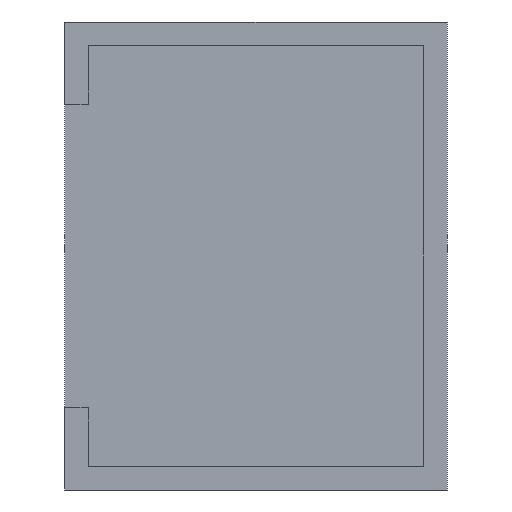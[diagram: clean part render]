
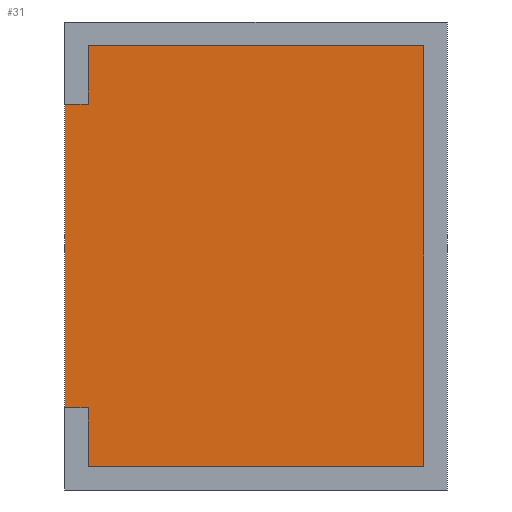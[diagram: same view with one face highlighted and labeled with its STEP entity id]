
A CAD part, left-side view. The second image highlights one B-rep face of the part: STEP entity #31.
In plain terms, the highlighted planar face has unit normal (-1, 0, 0).
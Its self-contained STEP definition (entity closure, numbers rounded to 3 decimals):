
#3 = LINE ( 'NONE', #293, #412 ) ;
#6 = CARTESIAN_POINT ( 'NONE',  ( -16.3, -21., -22.8 ) ) ;
#23 = ORIENTED_EDGE ( 'NONE', *, *, #208, .F. ) ;
#31 = ADVANCED_FACE ( 'NONE', ( #284 ), #411, .F. ) ;
#73 = DIRECTION ( 'NONE',  ( 0., -1., 0. ) ) ;
#81 = VECTOR ( 'NONE', #484, 1000. ) ;
#115 = ORIENTED_EDGE ( 'NONE', *, *, #602, .T. ) ;
#146 = CARTESIAN_POINT ( 'NONE',  ( -16.3, -21., -72.338 ) ) ;
#150 = LINE ( 'NONE', #652, #426 ) ;
#155 = VERTEX_POINT ( 'NONE', #300 ) ;
#208 = EDGE_CURVE ( 'NONE', #888, #155, #3, .T. ) ;
#284 = FACE_OUTER_BOUND ( 'NONE', #603, .T. ) ;
#292 = LINE ( 'NONE', #6, #396 ) ;
#293 = CARTESIAN_POINT ( 'NONE',  ( -16.3, 16.3, -72.338 ) ) ;
#300 = CARTESIAN_POINT ( 'NONE',  ( -16.3, 16.3, 22.8 ) ) ;
#313 = CARTESIAN_POINT ( 'NONE',  ( -16.3, -18.7, 22.8 ) ) ;
#355 = DIRECTION ( 'NONE',  ( 0., 0., 1. ) ) ;
#396 = VECTOR ( 'NONE', #73, 1000. ) ;
#399 = CARTESIAN_POINT ( 'NONE',  ( -16.3, -18.7, -22.8 ) ) ;
#411 = PLANE ( 'NONE',  #851 ) ;
#412 = VECTOR ( 'NONE', #459, 1000. ) ;
#420 = LINE ( 'NONE', #847, #81 ) ;
#426 = VECTOR ( 'NONE', #355, 1000. ) ;
#449 = VERTEX_POINT ( 'NONE', #399 ) ;
#459 = DIRECTION ( 'NONE',  ( 0., 0., 1. ) ) ;
#484 = DIRECTION ( 'NONE',  ( 0., 1., 0. ) ) ;
#506 = DIRECTION ( 'NONE',  ( 1., 0., 0. ) ) ;
#563 = CARTESIAN_POINT ( 'NONE',  ( -16.3, 16.3, -22.8 ) ) ;
#574 = EDGE_CURVE ( 'NONE', #888, #449, #292, .T. ) ;
#602 = EDGE_CURVE ( 'NONE', #449, #737, #150, .T. ) ;
#603 = EDGE_LOOP ( 'NONE', ( #620, #115, #735, #23 ) ) ;
#620 = ORIENTED_EDGE ( 'NONE', *, *, #574, .T. ) ;
#652 = CARTESIAN_POINT ( 'NONE',  ( -16.3, -18.7, 22.8 ) ) ;
#719 = DIRECTION ( 'NONE',  ( 0., 0., -1. ) ) ;
#735 = ORIENTED_EDGE ( 'NONE', *, *, #798, .T. ) ;
#737 = VERTEX_POINT ( 'NONE', #313 ) ;
#798 = EDGE_CURVE ( 'NONE', #737, #155, #420, .T. ) ;
#847 = CARTESIAN_POINT ( 'NONE',  ( -16.3, -21., 22.8 ) ) ;
#851 = AXIS2_PLACEMENT_3D ( 'NONE', #146, #506, #719 ) ;
#888 = VERTEX_POINT ( 'NONE', #563 ) ;
